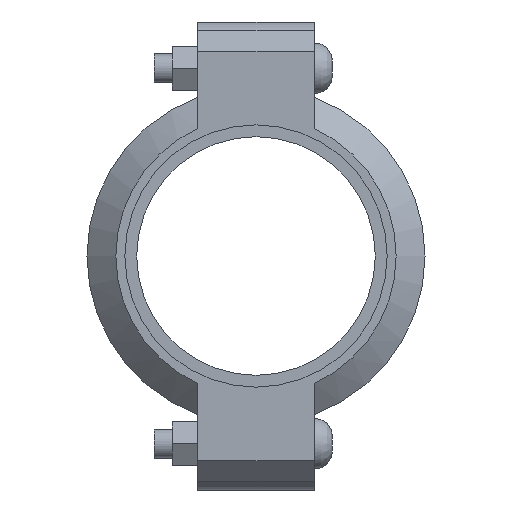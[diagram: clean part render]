
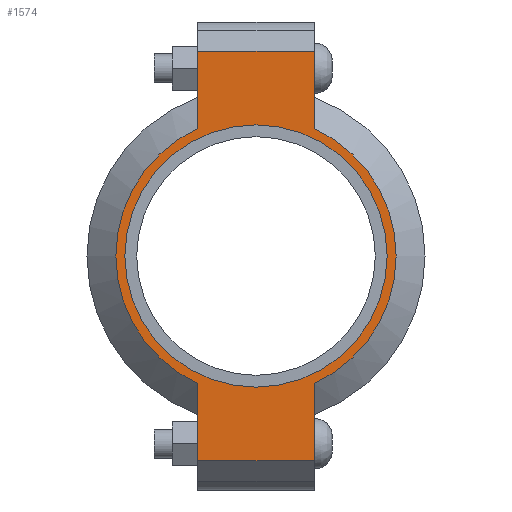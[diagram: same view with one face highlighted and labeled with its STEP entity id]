
A CAD part, left-side view. The second image highlights one B-rep face of the part: STEP entity #1574.
In plain terms, the highlighted planar face has unit normal (-1, 0, 0) as drawn and (0, 0, 1) by its records, which use the part's own axes.
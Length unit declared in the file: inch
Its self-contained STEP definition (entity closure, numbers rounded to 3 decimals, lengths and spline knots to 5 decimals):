
#198=LINE('',#2756,#291);
#206=LINE('',#2792,#299);
#213=LINE('',#2813,#306);
#222=LINE('',#2845,#315);
#223=LINE('',#2849,#316);
#224=LINE('',#2851,#317);
#291=VECTOR('',#2244,0.3937);
#299=VECTOR('',#2260,0.3937);
#306=VECTOR('',#2279,0.3937);
#315=VECTOR('',#2304,0.3937);
#316=VECTOR('',#2309,0.3937);
#317=VECTOR('',#2310,0.3937);
#373=FACE_BOUND('',#551,.T.);
#445=FACE_OUTER_BOUND('',#550,.T.);
#550=EDGE_LOOP('',(#1315,#1316,#1317,#1318,#1319,#1320,#1321,#1322));
#551=EDGE_LOOP('',(#1323));
#623=CIRCLE('',#1802,2.25);
#649=CIRCLE('',#1861,2.405);
#650=CIRCLE('',#1862,2.405);
#715=VERTEX_POINT('',#2572);
#758=VERTEX_POINT('',#2753);
#759=VERTEX_POINT('',#2755);
#770=VERTEX_POINT('',#2787);
#771=VERTEX_POINT('',#2791);
#778=VERTEX_POINT('',#2810);
#779=VERTEX_POINT('',#2812);
#789=VERTEX_POINT('',#2848);
#790=VERTEX_POINT('',#2850);
#871=EDGE_CURVE('',#715,#715,#623,.T.);
#932=EDGE_CURVE('',#759,#758,#198,.T.);
#946=EDGE_CURVE('',#771,#770,#206,.T.);
#956=EDGE_CURVE('',#779,#778,#213,.T.);
#971=EDGE_CURVE('',#771,#758,#222,.T.);
#972=EDGE_CURVE('',#770,#779,#649,.T.);
#973=EDGE_CURVE('',#789,#778,#223,.T.);
#974=EDGE_CURVE('',#789,#790,#224,.T.);
#975=EDGE_CURVE('',#790,#759,#650,.T.);
#1315=ORIENTED_EDGE('',*,*,#971,.F.);
#1316=ORIENTED_EDGE('',*,*,#946,.T.);
#1317=ORIENTED_EDGE('',*,*,#972,.T.);
#1318=ORIENTED_EDGE('',*,*,#956,.T.);
#1319=ORIENTED_EDGE('',*,*,#973,.F.);
#1320=ORIENTED_EDGE('',*,*,#974,.T.);
#1321=ORIENTED_EDGE('',*,*,#975,.T.);
#1322=ORIENTED_EDGE('',*,*,#932,.T.);
#1323=ORIENTED_EDGE('',*,*,#871,.T.);
#1416=PLANE('',#1860);
#1574=ADVANCED_FACE('',(#445,#373),#1416,.T.);
#1802=AXIS2_PLACEMENT_3D('',#2574,#2120,#2121);
#1860=AXIS2_PLACEMENT_3D('',#2846,#2305,#2306);
#1861=AXIS2_PLACEMENT_3D('',#2847,#2307,#2308);
#1862=AXIS2_PLACEMENT_3D('',#2852,#2311,#2312);
#2120=DIRECTION('center_axis',(0.,0.,-1.));
#2121=DIRECTION('ref_axis',(1.,0.,0.));
#2244=DIRECTION('',(1.,0.,0.));
#2260=DIRECTION('',(-1.,0.,0.));
#2279=DIRECTION('',(-1.,0.,0.));
#2304=DIRECTION('',(0.,-1.,0.));
#2305=DIRECTION('center_axis',(0.,0.,1.));
#2306=DIRECTION('ref_axis',(-1.,0.,0.));
#2307=DIRECTION('center_axis',(0.,0.,1.));
#2308=DIRECTION('ref_axis',(1.,0.,0.));
#2309=DIRECTION('',(0.,1.,0.));
#2310=DIRECTION('',(1.,0.,0.));
#2311=DIRECTION('center_axis',(0.,0.,1.));
#2312=DIRECTION('ref_axis',(1.,0.,0.));
#2572=CARTESIAN_POINT('',(-2.25,0.,1.065));
#2574=CARTESIAN_POINT('Origin',(0.,0.,1.065));
#2753=CARTESIAN_POINT('',(3.515,-1.,1.065));
#2755=CARTESIAN_POINT('',(2.18724,-1.,1.065));
#2756=CARTESIAN_POINT('',(4.015,-1.,1.065));
#2787=CARTESIAN_POINT('',(2.18724,1.,1.065));
#2791=CARTESIAN_POINT('',(3.515,1.,1.065));
#2792=CARTESIAN_POINT('',(-4.015,1.,1.065));
#2810=CARTESIAN_POINT('',(-3.515,1.,1.065));
#2812=CARTESIAN_POINT('',(-2.18724,1.,1.065));
#2813=CARTESIAN_POINT('',(-4.015,1.,1.065));
#2845=CARTESIAN_POINT('',(3.515,-0.5,1.065));
#2846=CARTESIAN_POINT('Origin',(0.,0.,
1.065));
#2847=CARTESIAN_POINT('Origin',(0.,0.,1.065));
#2848=CARTESIAN_POINT('',(-3.515,-1.,1.065));
#2849=CARTESIAN_POINT('',(-3.515,0.5,1.065));
#2850=CARTESIAN_POINT('',(-2.18724,-1.,1.065));
#2851=CARTESIAN_POINT('',(4.015,-1.,1.065));
#2852=CARTESIAN_POINT('Origin',(0.,0.,1.065));
